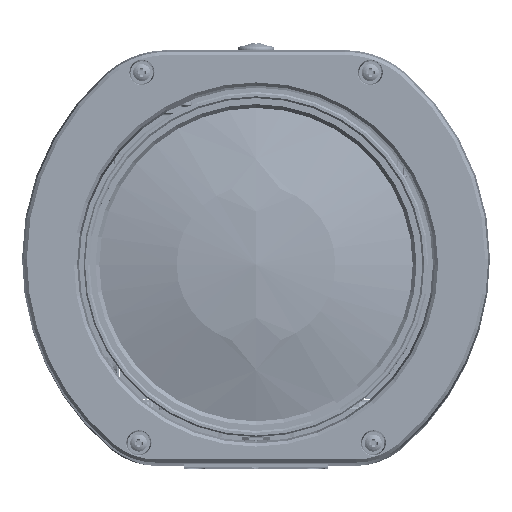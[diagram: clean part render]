
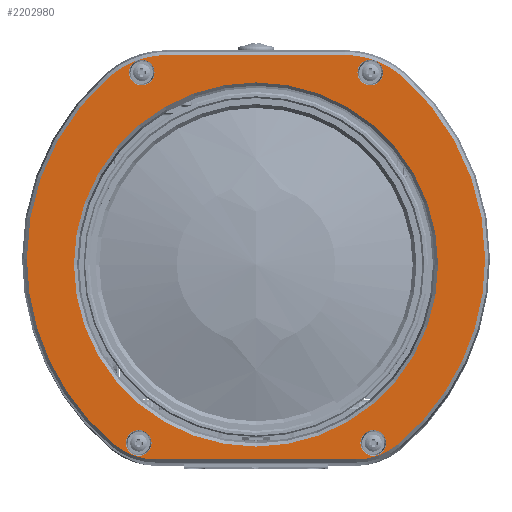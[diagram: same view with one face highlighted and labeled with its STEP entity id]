
A CAD part, top view. The second image highlights one B-rep face of the part: STEP entity #2202980.
In plain terms, the highlighted planar face has unit normal (0, 0, 1).
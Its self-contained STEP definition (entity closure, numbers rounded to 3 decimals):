
#2201380=CARTESIAN_POINT('',(0.,0.,370.));
#2201390=DIRECTION('',(0.,0.,1.));
#2201400=DIRECTION('',(1.,0.,0.));
#2201410=AXIS2_PLACEMENT_3D('',#2201380,#2201390,#2201400);
#2201420=PLANE('',#2201410);
#2201430=CARTESIAN_POINT('',(4.17,2.,370.));
#2201440=DIRECTION('',(0.,0.,1.));
#2201450=DIRECTION('',(-0.659,0.752,0.));
#2201460=AXIS2_PLACEMENT_3D('',#2201430,#2201440,#2201450);
#2201470=CIRCLE('',#2201460,80.551);
#2201480=CARTESIAN_POINT('',(-48.89,62.606,370.));
#2201490=VERTEX_POINT('',#2201480);
#2201500=CARTESIAN_POINT('',(-76.381,2.,
370.));
#2201510=VERTEX_POINT('',#2201500);
#2201520=EDGE_CURVE('',#2201490,#2201510,#2201470,.T.);
#2201530=ORIENTED_EDGE('',*,*,#2201520,.T.);
#2201540=CARTESIAN_POINT('',(-29.536,40.5,370.));
#2201550=DIRECTION('',(0.,0.,1.));
#2201560=DIRECTION('',(0.,1.,0.));
#2201570=AXIS2_PLACEMENT_3D('',#2201540,#2201550,#2201560);
#2201580=CIRCLE('',#2201570,29.381);
#2201590=CARTESIAN_POINT('',(-29.536,69.881,370.));
#2201600=VERTEX_POINT('',#2201590);
#2201610=EDGE_CURVE('',#2201600,#2201490,#2201580,.T.);
#2201620=ORIENTED_EDGE('',*,*,#2201610,.T.);
#2201630=CARTESIAN_POINT('',(29.536,69.881,370.));
#2201640=DIRECTION('',(-1.,0.,0.));
#2201650=VECTOR('',#2201640,59.073);
#2201660=LINE('',#2201630,#2201650);
#2201670=CARTESIAN_POINT('',(29.536,69.881,370.));
#2201680=VERTEX_POINT('',#2201670);
#2201690=EDGE_CURVE('',#2201680,#2201600,#2201660,.T.);
#2201700=ORIENTED_EDGE('',*,*,#2201690,.T.);
#2201710=CARTESIAN_POINT('',(29.536,40.5,370.));
#2201720=DIRECTION('',(0.,0.,1.));
#2201730=DIRECTION('',(0.659,0.752,0.));
#2201740=AXIS2_PLACEMENT_3D('',#2201710,#2201720,#2201730);
#2201750=CIRCLE('',#2201740,29.381);
#2201760=CARTESIAN_POINT('',(48.89,62.606,370.));
#2201770=VERTEX_POINT('',#2201760);
#2201780=EDGE_CURVE('',#2201770,#2201680,#2201750,.T.);
#2201790=ORIENTED_EDGE('',*,*,#2201780,.T.);
#2201800=CARTESIAN_POINT('',(-4.17,2.,370.));
#2201810=DIRECTION('',(0.,0.,1.));
#2201820=DIRECTION('',(0.64,-0.768,0.));
#2201830=AXIS2_PLACEMENT_3D('',#2201800,#2201810,#2201820);
#2201840=CIRCLE('',#2201830,80.551);
#2201850=CARTESIAN_POINT('',(76.381,2.,
370.));
#2201860=VERTEX_POINT('',#2201850);
#2201870=EDGE_CURVE('',#2201860,#2201770,#2201840,.T.);
#2201880=ORIENTED_EDGE('',*,*,#2201870,.T.);
#2201890=CARTESIAN_POINT('',(47.389,-59.888,370.));
#2201900=VERTEX_POINT('',#2201890);
#2201910=EDGE_CURVE('',#2201900,#2201860,#2201840,.T.);
#2201920=ORIENTED_EDGE('',*,*,#2201910,.T.);
#2201930=CARTESIAN_POINT('',(33.319,-43.,370.));
#2201940=DIRECTION('',(0.,0.,1.));
#2201950=DIRECTION('',(0.,-1.,0.));
#2201960=AXIS2_PLACEMENT_3D('',#2201930,#2201940,#2201950);
#2201970=CIRCLE('',#2201960,21.981);
#2201980=CARTESIAN_POINT('',(33.319,-64.981,370.));
#2201990=VERTEX_POINT('',#2201980);
#2202000=EDGE_CURVE('',#2201990,#2201900,#2201970,.T.);
#2202010=ORIENTED_EDGE('',*,*,#2202000,.T.);
#2202020=CARTESIAN_POINT('',(-33.319,-64.981,370.));
#2202030=DIRECTION('',(1.,0.,0.));
#2202040=VECTOR('',#2202030,66.639);
#2202050=LINE('',#2202020,#2202040);
#2202060=CARTESIAN_POINT('',(-33.319,-64.981,370.));
#2202070=VERTEX_POINT('',#2202060);
#2202080=EDGE_CURVE('',#2202070,#2201990,#2202050,.T.);
#2202090=ORIENTED_EDGE('',*,*,#2202080,.T.);
#2202100=CARTESIAN_POINT('',(-33.319,-43.,370.));
#2202110=DIRECTION('',(0.,0.,1.));
#2202120=DIRECTION('',(-0.64,-0.768,0.));
#2202130=AXIS2_PLACEMENT_3D('',#2202100,#2202110,#2202120);
#2202140=CIRCLE('',#2202130,21.981);
#2202150=CARTESIAN_POINT('',(-47.389,-59.888,370.));
#2202160=VERTEX_POINT('',#2202150);
#2202170=EDGE_CURVE('',#2202160,#2202070,#2202140,.T.);
#2202180=ORIENTED_EDGE('',*,*,#2202170,.T.);
#2202190=EDGE_CURVE('',#2201510,#2202160,#2201470,.T.);
#2202200=ORIENTED_EDGE('',*,*,#2202190,.T.);
#2202210=EDGE_LOOP('',(#2202200,#2202180,#2202090,#2202010,#2201920,
#2201880,#2201790,#2201700,#2201620,#2201530));
#2202220=FACE_OUTER_BOUND('',#2202210,.T.);
#2202230=CARTESIAN_POINT('',(0.,0.,370.));
#2202240=DIRECTION('',(0.,0.,-1.));
#2202250=DIRECTION('',(-1.,0.,0.));
#2202260=AXIS2_PLACEMENT_3D('',#2202230,#2202240,#2202250);
#2202270=CIRCLE('',#2202260,60.702);
#2202280=CARTESIAN_POINT('',(-60.702,0.,
370.));
#2202290=VERTEX_POINT('',#2202280);
#2202300=CARTESIAN_POINT('',(60.702,0.,
370.));
#2202310=VERTEX_POINT('',#2202300);
#2202320=EDGE_CURVE('',#2202290,#2202310,#2202270,.T.);
#2202330=ORIENTED_EDGE('',*,*,#2202320,.T.);
#2202340=EDGE_CURVE('',#2202310,#2202290,#2202270,.T.);
#2202350=ORIENTED_EDGE('',*,*,#2202340,.T.);
#2202360=EDGE_LOOP('',(#2202350,#2202330));
#2202370=FACE_BOUND('',#2202360,.T.);
#2202380=CARTESIAN_POINT('',(-38.1,64.,370.));
#2202390=DIRECTION('',(0.,0.,-1.));
#2202400=DIRECTION('',(1.,0.,0.));
#2202410=AXIS2_PLACEMENT_3D('',#2202380,#2202390,#2202400);
#2202420=CIRCLE('',#2202410,4.289);
#2202430=CARTESIAN_POINT('',(-42.389,64.,370.));
#2202440=VERTEX_POINT('',#2202430);
#2202450=CARTESIAN_POINT('',(-33.811,64.,370.));
#2202460=VERTEX_POINT('',#2202450);
#2202470=EDGE_CURVE('',#2202440,#2202460,#2202420,.T.);
#2202480=ORIENTED_EDGE('',*,*,#2202470,.T.);
#2202490=EDGE_CURVE('',#2202460,#2202440,#2202420,.T.);
#2202500=ORIENTED_EDGE('',*,*,#2202490,.T.);
#2202510=EDGE_LOOP('',(#2202500,#2202480));
#2202520=FACE_BOUND('',#2202510,.T.);
#2202530=CARTESIAN_POINT('',(38.1,64.,370.));
#2202540=DIRECTION('',(0.,0.,-1.));
#2202550=DIRECTION('',(1.,0.,0.));
#2202560=AXIS2_PLACEMENT_3D('',#2202530,#2202540,#2202550);
#2202570=CIRCLE('',#2202560,4.289);
#2202580=CARTESIAN_POINT('',(42.389,64.,370.));
#2202590=VERTEX_POINT('',#2202580);
#2202600=CARTESIAN_POINT('',(33.811,64.,370.));
#2202610=VERTEX_POINT('',#2202600);
#2202620=EDGE_CURVE('',#2202590,#2202610,#2202570,.T.);
#2202630=ORIENTED_EDGE('',*,*,#2202620,.T.);
#2202640=EDGE_CURVE('',#2202610,#2202590,#2202570,.T.);
#2202650=ORIENTED_EDGE('',*,*,#2202640,.T.);
#2202660=EDGE_LOOP('',(#2202650,#2202630));
#2202670=FACE_BOUND('',#2202660,.T.);
#2202680=CARTESIAN_POINT('',(-39.1,-59.5,370.));
#2202690=DIRECTION('',(0.,0.,-1.));
#2202700=DIRECTION('',(-1.,0.,0.));
#2202710=AXIS2_PLACEMENT_3D('',#2202680,#2202690,#2202700);
#2202720=CIRCLE('',#2202710,4.289);
#2202730=CARTESIAN_POINT('',(-34.811,-59.5,370.));
#2202740=VERTEX_POINT('',#2202730);
#2202750=CARTESIAN_POINT('',(-43.389,-59.5,370.));
#2202760=VERTEX_POINT('',#2202750);
#2202770=EDGE_CURVE('',#2202740,#2202760,#2202720,.T.);
#2202780=ORIENTED_EDGE('',*,*,#2202770,.T.);
#2202790=EDGE_CURVE('',#2202760,#2202740,#2202720,.T.);
#2202800=ORIENTED_EDGE('',*,*,#2202790,.T.);
#2202810=EDGE_LOOP('',(#2202800,#2202780));
#2202820=FACE_BOUND('',#2202810,.T.);
#2202830=CARTESIAN_POINT('',(39.1,-59.5,370.));
#2202840=DIRECTION('',(0.,0.,-1.));
#2202850=DIRECTION('',(-1.,0.,0.));
#2202860=AXIS2_PLACEMENT_3D('',#2202830,#2202840,#2202850);
#2202870=CIRCLE('',#2202860,4.289);
#2202880=CARTESIAN_POINT('',(43.389,-59.5,370.));
#2202890=VERTEX_POINT('',#2202880);
#2202900=CARTESIAN_POINT('',(34.811,-59.5,370.));
#2202910=VERTEX_POINT('',#2202900);
#2202920=EDGE_CURVE('',#2202890,#2202910,#2202870,.T.);
#2202930=ORIENTED_EDGE('',*,*,#2202920,.T.);
#2202940=EDGE_CURVE('',#2202910,#2202890,#2202870,.T.);
#2202950=ORIENTED_EDGE('',*,*,#2202940,.T.);
#2202960=EDGE_LOOP('',(#2202950,#2202930));
#2202970=FACE_BOUND('',#2202960,.T.);
#2202980=ADVANCED_FACE('',(#2202220,#2202370,#2202520,#2202670,#2202820,
#2202970),#2201420,.T.);
